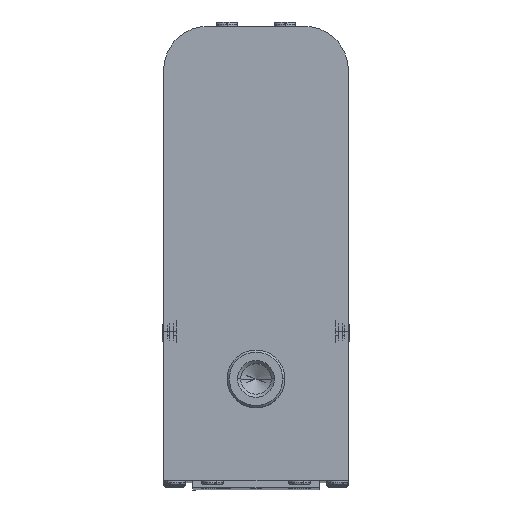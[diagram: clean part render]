
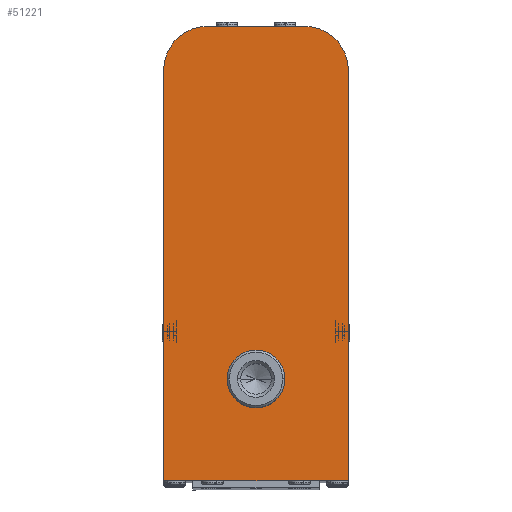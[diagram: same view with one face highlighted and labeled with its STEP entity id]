
A CAD part, top view. The second image highlights one B-rep face of the part: STEP entity #51221.
In plain terms, the highlighted planar face has unit normal (0, 0, 1).
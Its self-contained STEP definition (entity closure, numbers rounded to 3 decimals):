
#737 = CARTESIAN_POINT ( 'NONE',  ( 0., 0., 0. ) ) ;
#1203 = AXIS2_PLACEMENT_3D ( 'NONE', #19462, #76732, #41634 ) ;
#2568 = EDGE_CURVE ( 'NONE', #9906, #42709, #17581, .T. ) ;
#3417 = CARTESIAN_POINT ( 'NONE',  ( 6.7, 38.1, 0. ) ) ;
#5487 = DIRECTION ( 'NONE',  ( 0., 0., 1. ) ) ;
#8457 = CIRCLE ( 'NONE', #29125, 6. ) ;
#9906 = VERTEX_POINT ( 'NONE', #69660 ) ;
#13336 = CARTESIAN_POINT ( 'NONE',  ( -6.7, 32.1, 0. ) ) ;
#17581 = CIRCLE ( 'NONE', #42719, 6. ) ;
#18806 = ORIENTED_EDGE ( 'NONE', *, *, #34773, .F. ) ;
#19462 = CARTESIAN_POINT ( 'NONE',  ( 0., -10.446, 0. ) ) ;
#20127 = ORIENTED_EDGE ( 'NONE', *, *, #35230, .T. ) ;
#20477 = VERTEX_POINT ( 'NONE', #28131 ) ;
#21302 = VERTEX_POINT ( 'NONE', #70770 ) ;
#21936 = LINE ( 'NONE', #27481, #66543 ) ;
#22460 = PLANE ( 'NONE',  #72843 ) ;
#23341 = DIRECTION ( 'NONE',  ( 0., 0., 1. ) ) ;
#25543 = CARTESIAN_POINT ( 'NONE',  ( -3.969, -10.446, 0. ) ) ;
#26258 = CIRCLE ( 'NONE', #1203, 3.969 ) ;
#26821 = DIRECTION ( 'NONE',  ( -1., 0., 0. ) ) ;
#27481 = CARTESIAN_POINT ( 'NONE',  ( 12.7, 38.1, 0. ) ) ;
#27561 = ORIENTED_EDGE ( 'NONE', *, *, #49611, .F. ) ;
#28131 = CARTESIAN_POINT ( 'NONE',  ( 12.7, -24.4, 0. ) ) ;
#29125 = AXIS2_PLACEMENT_3D ( 'NONE', #13336, #5487, #47546 ) ;
#29312 = DIRECTION ( 'NONE',  ( 1., 0., 0. ) ) ;
#29434 = EDGE_CURVE ( 'NONE', #33319, #37221, #8457, .T. ) ;
#30725 = FACE_OUTER_BOUND ( 'NONE', #91406, .T. ) ;
#33286 = CARTESIAN_POINT ( 'NONE',  ( -8.7, -24.4, 0. ) ) ;
#33319 = VERTEX_POINT ( 'NONE', #37540 ) ;
#34107 = ORIENTED_EDGE ( 'NONE', *, *, #75909, .F. ) ;
#34773 = EDGE_CURVE ( 'NONE', #9906, #20477, #53362, .T. ) ;
#35230 = EDGE_CURVE ( 'NONE', #37221, #75518, #78787, .T. ) ;
#37221 = VERTEX_POINT ( 'NONE', #82463 ) ;
#37540 = CARTESIAN_POINT ( 'NONE',  ( -6.7, 38.1, 0. ) ) ;
#37633 = ORIENTED_EDGE ( 'NONE', *, *, #29434, .T. ) ;
#38106 = CARTESIAN_POINT ( 'NONE',  ( -12.7, 38.1, 0. ) ) ;
#41549 = ORIENTED_EDGE ( 'NONE', *, *, #78455, .F. ) ;
#41634 = DIRECTION ( 'NONE',  ( 1., 0., 0. ) ) ;
#42709 = VERTEX_POINT ( 'NONE', #3417 ) ;
#42714 = CARTESIAN_POINT ( 'NONE',  ( 0., -10.446, 0. ) ) ;
#42719 = AXIS2_PLACEMENT_3D ( 'NONE', #91043, #84559, #68837 ) ;
#44241 = ORIENTED_EDGE ( 'NONE', *, *, #2568, .T. ) ;
#47546 = DIRECTION ( 'NONE',  ( 1., 0., 0. ) ) ;
#48179 = VECTOR ( 'NONE', #60776, 1000. ) ;
#49611 = EDGE_CURVE ( 'NONE', #55723, #21302, #84115, .T. ) ;
#51221 = ADVANCED_FACE ( 'NONE', ( #30725, #65839 ), #22460, .T. ) ;
#51527 = DIRECTION ( 'NONE',  ( 1., 0., 0. ) ) ;
#53362 = LINE ( 'NONE', #81538, #48179 ) ;
#55003 = LINE ( 'NONE', #33286, #76495 ) ;
#55723 = VERTEX_POINT ( 'NONE', #25543 ) ;
#56135 = DIRECTION ( 'NONE',  ( 0., 0., 1. ) ) ;
#57042 = DIRECTION ( 'NONE',  ( -1., 0., 0. ) ) ;
#60776 = DIRECTION ( 'NONE',  ( 0., -1., 0. ) ) ;
#65839 = FACE_BOUND ( 'NONE', #87523, .T. ) ;
#65930 = CARTESIAN_POINT ( 'NONE',  ( -12.7, -24.4, 0. ) ) ;
#66543 = VECTOR ( 'NONE', #57042, 1000. ) ;
#68837 = DIRECTION ( 'NONE',  ( 1., 0., 0. ) ) ;
#69660 = CARTESIAN_POINT ( 'NONE',  ( 12.7, 32.1, 0. ) ) ;
#70770 = CARTESIAN_POINT ( 'NONE',  ( 3.969, -10.446, 0. ) ) ;
#72843 = AXIS2_PLACEMENT_3D ( 'NONE', #737, #23341, #51527 ) ;
#75518 = VERTEX_POINT ( 'NONE', #65930 ) ;
#75909 = EDGE_CURVE ( 'NONE', #21302, #55723, #26258, .T. ) ;
#76495 = VECTOR ( 'NONE', #26821, 1000. ) ;
#76732 = DIRECTION ( 'NONE',  ( 0., 0., 1. ) ) ;
#78455 = EDGE_CURVE ( 'NONE', #20477, #75518, #55003, .T. ) ;
#78787 = LINE ( 'NONE', #38106, #83654 ) ;
#81538 = CARTESIAN_POINT ( 'NONE',  ( 12.7, 38.1, 0. ) ) ;
#82463 = CARTESIAN_POINT ( 'NONE',  ( -12.7, 32.1, 0. ) ) ;
#83654 = VECTOR ( 'NONE', #87103, 1000. ) ;
#84115 = CIRCLE ( 'NONE', #87014, 3.969 ) ;
#84482 = EDGE_CURVE ( 'NONE', #42709, #33319, #21936, .T. ) ;
#84559 = DIRECTION ( 'NONE',  ( 0., 0., 1. ) ) ;
#87014 = AXIS2_PLACEMENT_3D ( 'NONE', #42714, #56135, #29312 ) ;
#87103 = DIRECTION ( 'NONE',  ( 0., -1., 0. ) ) ;
#87523 = EDGE_LOOP ( 'NONE', ( #27561, #34107 ) ) ;
#91043 = CARTESIAN_POINT ( 'NONE',  ( 6.7, 32.1, 0. ) ) ;
#91406 = EDGE_LOOP ( 'NONE', ( #41549, #18806, #44241, #91433, #37633, #20127 ) ) ;
#91433 = ORIENTED_EDGE ( 'NONE', *, *, #84482, .T. ) ;
